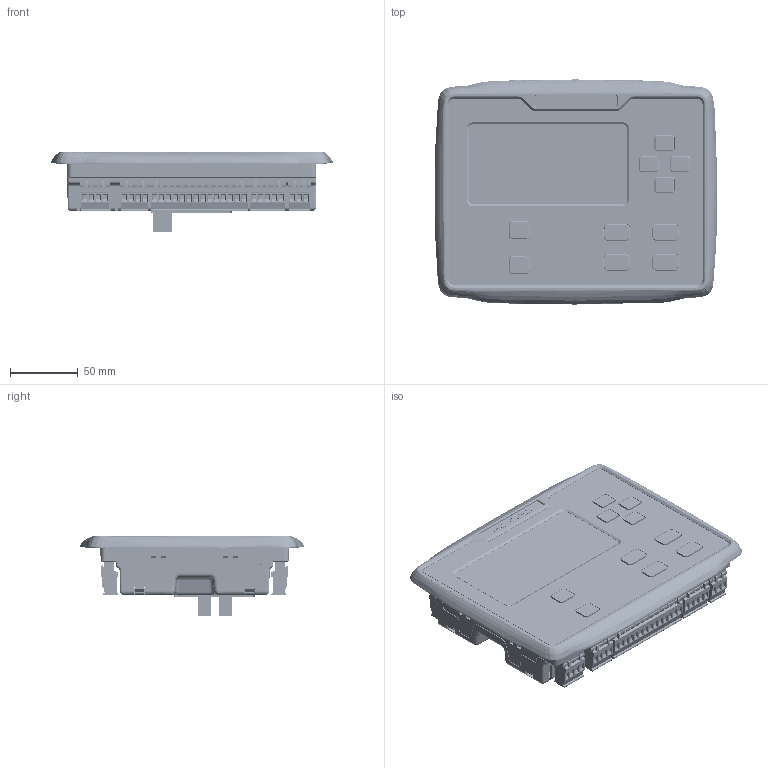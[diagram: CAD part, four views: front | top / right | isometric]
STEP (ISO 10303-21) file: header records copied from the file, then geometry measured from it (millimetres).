
FILE_DESCRIPTION (( 'STEP AP203' ), '1' );
FILE_NAME ('ALC736.STEP', '2024-08-23T09:10:20', ( 'gk' ), ( '' ), 'SwSTEP 2.0', 'SolidWorks 2018', '' );
FILE_SCHEMA (( 'CONFIG_CONTROL_DESIGN' ));
Length unit declared in the file: millimetre
Products named in the file (11): MVSTBR 2.5__3-ST-5.08.STEP; BQ-HGM6100N-SG-L(d__.STEP; MVSTBR 2.5__4-ST-5.08.STEP; MVSTBR 2.5__9-ST-5.08.STEP; ALC736蚾饜极.STEP; ALC736; MVSTBR 2.5__4-ST-7.62.STEP; MVSTBR 2.5__14-ST-5.08.STEP; ALC736-18.STEP; MVSTBR 2.5__5-ST-5.08.STEP; MVSTBR 2.5__7-ST-5.08.STEP
Assembly tree (12 placements, depth 3):
  ALC736
    ALC736蚾饜极.STEP
      ALC736-18.STEP
      MVSTBR 2.5__5-ST-5.08.STEP  x2
      MVSTBR 2.5__14-ST-5.08.STEP
      MVSTBR 2.5__4-ST-5.08.STEP  x2
      MVSTBR 2.5__9-ST-5.08.STEP
      MVSTBR 2.5__7-ST-5.08.STEP
      MVSTBR 2.5__3-ST-5.08.STEP
      MVSTBR 2.5__4-ST-7.62.STEP
      BQ-HGM6100N-SG-L(d__.STEP
Bounding box: 208.35 x 166.13 x 59.3 mm (x, y, z)
Volume: 389254.1 mm3; surface area: 423910 mm2
Topology: 36 solids, 36 shells, 11127 faces, 30044 edges, 19249 vertices
Faces by surface type: plane 7931, cylinder 2126, bspline 629, cone 285, torus 156
Entity records: 451572 total; most frequent: CARTESIAN_POINT 183585, ORIENTED_EDGE 58102, DIRECTION 51943, EDGE_CURVE 29051, VECTOR 21903, LINE 21903, VERTEX_POINT 18595, AXIS2_PLACEMENT_3D 15020
